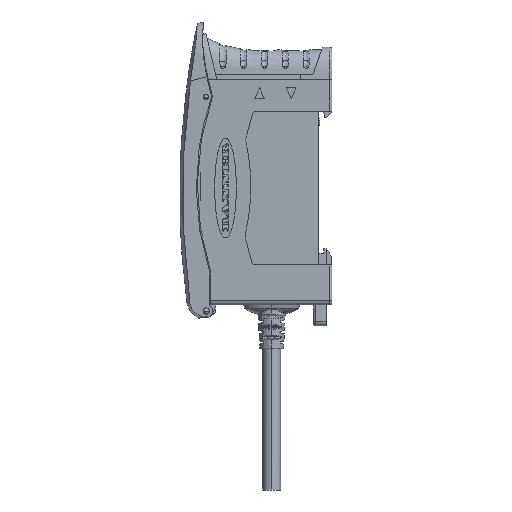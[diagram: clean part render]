
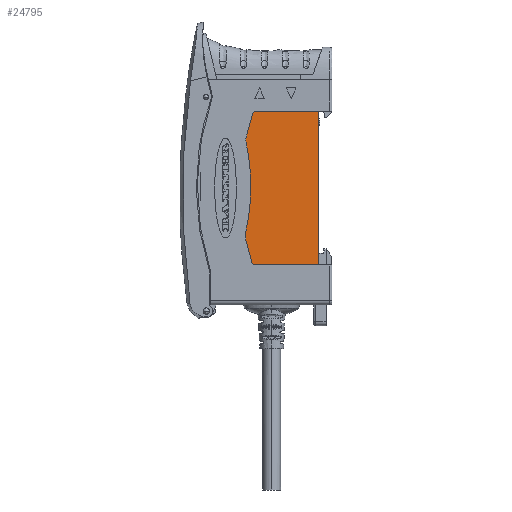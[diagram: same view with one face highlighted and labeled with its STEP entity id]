
A CAD part, left-side view. The second image highlights one B-rep face of the part: STEP entity #24795.
In plain terms, the highlighted planar face has unit normal (-1, 0, 0).
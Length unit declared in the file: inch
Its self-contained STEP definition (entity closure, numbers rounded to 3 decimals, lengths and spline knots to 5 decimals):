
#66 = PLANE ( 'NONE',  #79164 ) ;
#67 = CARTESIAN_POINT ( 'NONE',  ( -0.18898, 0.11208, -1.78504 ) ) ;
#72 = DIRECTION ( 'NONE',  ( -1., 0., 0. ) ) ;
#73 = DIRECTION ( 'NONE',  ( 0., 0., 1. ) ) ;
#13857 = VERTEX_POINT ( 'NONE', #52102 ) ;
#13859 = VERTEX_POINT ( 'NONE', #52104 ) ;
#13860 = VERTEX_POINT ( 'NONE', #52105 ) ;
#13861 = VERTEX_POINT ( 'NONE', #52106 ) ;
#13862 = VERTEX_POINT ( 'NONE', #52107 ) ;
#13866 = VERTEX_POINT ( 'NONE', #52111 ) ;
#13867 = VERTEX_POINT ( 'NONE', #52112 ) ;
#13869 = VERTEX_POINT ( 'NONE', #52114 ) ;
#13870 = VERTEX_POINT ( 'NONE', #52115 ) ;
#13942 = VERTEX_POINT ( 'NONE', #52187 ) ;
#13943 = VERTEX_POINT ( 'NONE', #52188 ) ;
#15006 = EDGE_CURVE ( 'NONE', #13943, #13942, #40585, .T. ) ;
#18769 = EDGE_CURVE ( 'NONE', #13857, #13860, #65129, .T. ) ;
#18777 = EDGE_CURVE ( 'NONE', #13859, #13861, #65145, .T. ) ;
#18778 = EDGE_CURVE ( 'NONE', #13861, #13866, #65147, .T. ) ;
#18779 = EDGE_CURVE ( 'NONE', #13866, #13867, #65148, .T. ) ;
#18780 = EDGE_CURVE ( 'NONE', #13867, #13943, #65150, .T. ) ;
#18781 = EDGE_CURVE ( 'NONE', #13942, #13862, #65151, .T. ) ;
#18782 = EDGE_CURVE ( 'NONE', #13862, #13869, #65152, .T. ) ;
#18783 = EDGE_CURVE ( 'NONE', #13869, #13870, #65153, .T. ) ;
#18784 = EDGE_CURVE ( 'NONE', #13870, #13860, #65155, .T. ) ;
#18785 = EDGE_CURVE ( 'NONE', #13857, #13859, #65156, .T. ) ;
#21703 = EDGE_LOOP ( 'NONE', ( #24263, #24264, #24265, #24266, #24267, #24268, #24269, #24270, #24271, #24272, #24273 ) ) ;
#24263 = ORIENTED_EDGE ( 'NONE', *, *, #18777, .T. ) ;
#24264 = ORIENTED_EDGE ( 'NONE', *, *, #18778, .T. ) ;
#24265 = ORIENTED_EDGE ( 'NONE', *, *, #18779, .T. ) ;
#24266 = ORIENTED_EDGE ( 'NONE', *, *, #18780, .T. ) ;
#24267 = ORIENTED_EDGE ( 'NONE', *, *, #15006, .T. ) ;
#24268 = ORIENTED_EDGE ( 'NONE', *, *, #18781, .T. ) ;
#24269 = ORIENTED_EDGE ( 'NONE', *, *, #18782, .T. ) ;
#24270 = ORIENTED_EDGE ( 'NONE', *, *, #18783, .T. ) ;
#24271 = ORIENTED_EDGE ( 'NONE', *, *, #18784, .T. ) ;
#24272 = ORIENTED_EDGE ( 'NONE', *, *, #18769, .F. ) ;
#24273 = ORIENTED_EDGE ( 'NONE', *, *, #18785, .T. ) ;
#24795 = ADVANCED_FACE ( 'NONE', ( #77054 ), #66, .T. ) ;
#40585 = CIRCLE ( 'NONE', #83912, 1.9685 ) ;
#52102 = CARTESIAN_POINT ( 'NONE',  ( -0.18898, 0.12598, -0.29921 ) ) ;
#52104 = CARTESIAN_POINT ( 'NONE',  ( -0.18898, 0.71507, -0.29921 ) ) ;
#52105 = CARTESIAN_POINT ( 'NONE',  ( -0.18898, 0.12598, -1.75591 ) ) ;
#52106 = CARTESIAN_POINT ( 'NONE',  ( -0.18898, 0.7531, -0.32839 ) ) ;
#52107 = CARTESIAN_POINT ( 'NONE',  ( -0.18898, 0.81715, -1.51088 ) ) ;
#52111 = CARTESIAN_POINT ( 'NONE',  ( -0.18898, 0.81094, -0.54423 ) ) ;
#52112 = CARTESIAN_POINT ( 'NONE',  ( -0.18898, 0.81232, -0.59964 ) ) ;
#52114 = CARTESIAN_POINT ( 'NONE',  ( -0.18898, 0.75932, -1.72673 ) ) ;
#52115 = CARTESIAN_POINT ( 'NONE',  ( -0.18898, 0.72129, -1.75591 ) ) ;
#52187 = CARTESIAN_POINT ( 'NONE',  ( -0.18898, 0.81818, -1.4539 ) ) ;
#52188 = CARTESIAN_POINT ( 'NONE',  ( -0.18898, 0.76831, -1.01358 ) ) ;
#57797 = CARTESIAN_POINT ( 'NONE',  ( -0.18898, 2.73681, -1.01358 ) ) ;
#57798 = DIRECTION ( 'NONE',  ( 1., 0., 0. ) ) ;
#57799 = DIRECTION ( 'NONE',  ( 0., -1., 0. ) ) ;
#65129 = LINE ( 'NONE', #67300, #65132 ) ;
#65132 = VECTOR ( 'NONE', #67301, 39.37008 ) ;
#65145 = CIRCLE ( 'NONE', #83971, 0.03937 ) ;
#65147 = LINE ( 'NONE', #67311, #65149 ) ;
#65148 = CIRCLE ( 'NONE', #83972, 0.11811 ) ;
#65149 = VECTOR ( 'NONE', #67307, 39.37008 ) ;
#65150 = CIRCLE ( 'NONE', #83973, 1.9685 ) ;
#65151 = CIRCLE ( 'NONE', #83974, 0.11811 ) ;
#65152 = LINE ( 'NONE', #67322, #65154 ) ;
#65153 = CIRCLE ( 'NONE', #83975, 0.03937 ) ;
#65154 = VECTOR ( 'NONE', #67323, 39.37008 ) ;
#65155 = LINE ( 'NONE', #67327, #65157 ) ;
#65156 = LINE ( 'NONE', #67337, #65159 ) ;
#65157 = VECTOR ( 'NONE', #67328, 39.37008 ) ;
#65159 = VECTOR ( 'NONE', #67338, 39.37008 ) ;
#67300 = CARTESIAN_POINT ( 'NONE',  ( -0.18898, 0.12598, -1.02756 ) ) ;
#67301 = DIRECTION ( 'NONE',  ( 0., 0., -1. ) ) ;
#67307 = DIRECTION ( 'NONE',  ( 0., 0.259, -0.966 ) ) ;
#67311 = CARTESIAN_POINT ( 'NONE',  ( -0.18898, 0.78202, -0.43631 ) ) ;
#67316 = CARTESIAN_POINT ( 'NONE',  ( -0.18898, 0.71507, -0.33858 ) ) ;
#67317 = DIRECTION ( 'NONE',  ( -1., 0., 0. ) ) ;
#67318 = DIRECTION ( 'NONE',  ( 0., -1., 0. ) ) ;
#67319 = CARTESIAN_POINT ( 'NONE',  ( -0.18898, 0.69685, -0.5748 ) ) ;
#67320 = DIRECTION ( 'NONE',  ( -1., 0., 0. ) ) ;
#67321 = DIRECTION ( 'NONE',  ( 0., -1., 0. ) ) ;
#67322 = CARTESIAN_POINT ( 'NONE',  ( -0.18898, 0.78824, -1.6188 ) ) ;
#67323 = DIRECTION ( 'NONE',  ( 0., -0.259, -0.966 ) ) ;
#67324 = CARTESIAN_POINT ( 'NONE',  ( -0.18898, 2.73681, -1.01358 ) ) ;
#67325 = DIRECTION ( 'NONE',  ( 1., 0., 0. ) ) ;
#67326 = DIRECTION ( 'NONE',  ( 0., -1., 0. ) ) ;
#67327 = CARTESIAN_POINT ( 'NONE',  ( -0.18898, 0.36064, -1.75591 ) ) ;
#67328 = DIRECTION ( 'NONE',  ( 0., -1., 0. ) ) ;
#67329 = CARTESIAN_POINT ( 'NONE',  ( -0.18898, 0.70307, -1.48031 ) ) ;
#67330 = DIRECTION ( 'NONE',  ( -1., 0., 0. ) ) ;
#67331 = DIRECTION ( 'NONE',  ( 0., -1., 0. ) ) ;
#67334 = CARTESIAN_POINT ( 'NONE',  ( -0.18898, 0.72129, -1.71654 ) ) ;
#67335 = DIRECTION ( 'NONE',  ( -1., 0., 0. ) ) ;
#67336 = DIRECTION ( 'NONE',  ( 0., -1., 0. ) ) ;
#67337 = CARTESIAN_POINT ( 'NONE',  ( -0.18898, 0.35754, -0.29921 ) ) ;
#67338 = DIRECTION ( 'NONE',  ( 0., 1., 0. ) ) ;
#77054 = FACE_OUTER_BOUND ( 'NONE', #21703, .T. ) ;
#79164 = AXIS2_PLACEMENT_3D ( 'NONE', #67, #72, #73 ) ;
#83912 = AXIS2_PLACEMENT_3D ( 'NONE', #57797, #57798, #57799 ) ;
#83971 = AXIS2_PLACEMENT_3D ( 'NONE', #67316, #67317, #67318 ) ;
#83972 = AXIS2_PLACEMENT_3D ( 'NONE', #67319, #67320, #67321 ) ;
#83973 = AXIS2_PLACEMENT_3D ( 'NONE', #67324, #67325, #67326 ) ;
#83974 = AXIS2_PLACEMENT_3D ( 'NONE', #67329, #67330, #67331 ) ;
#83975 = AXIS2_PLACEMENT_3D ( 'NONE', #67334, #67335, #67336 ) ;
